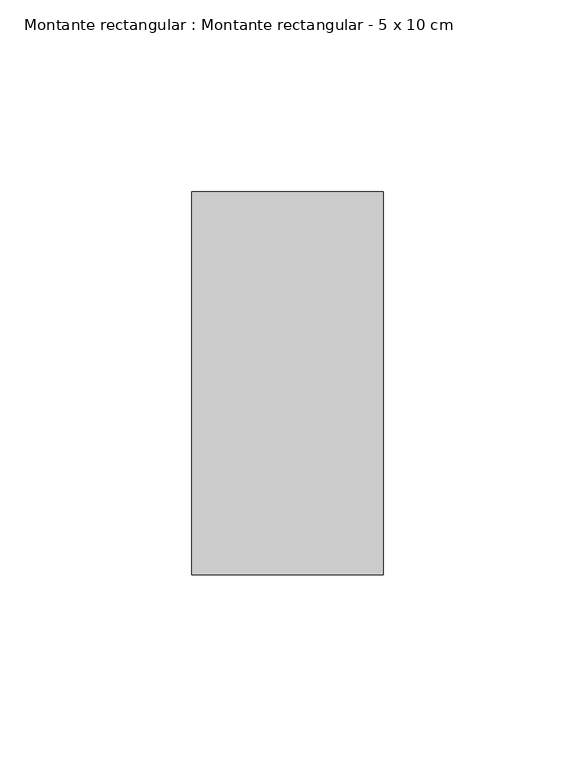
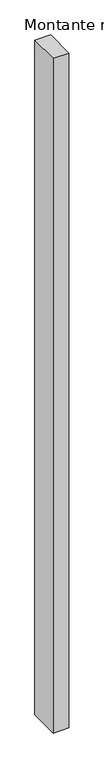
"""IFC4 building model written with IfcOpenShell, lengths in millimetres: member geometry, Montante rectangular : Montante rectangular - 5 x 10 cm."""

from ifc_helpers import new_model, si_unit, frame, origin, place, context, project, spatial, polyline, outline, extrude, source, transform, mapped, element, save


def montante_rectangular_montante_rectangular_5_x_10_cm_b7bb34ff(model_context):
    return source(origin(), model_context, "Body", "SweptSolid", [
        extrude(outline(polyline([(0.0, 50.0), (0.0, -50.0), (-50.0, -50.0), (-50.0, 50.0), (0.0, 50.0)])), frame((0.0, 0.0, -2260.0), z_axis=(0.0, 0.0, 1.0), x_axis=(1.0, 0.0, 0.0)), (0.0, 0.0, 1.0), 2260.0),
    ])


if __name__ == "__main__":
    model = new_model("IFC4")
    model_context = context("Model", 3, world=origin())
    ifc_project = project(units=[si_unit("LENGTHUNIT", "METRE", prefix="MILLI")], contexts=[model_context])
    site = spatial("IfcSite", under=ifc_project)
    building = spatial("IfcBuilding", under=site)
    placement = place(None, origin())
    montante_rectangular_montante_rectangular_5_x_10_cm_shape = montante_rectangular_montante_rectangular_5_x_10_cm_b7bb34ff(model_context)
    element("IfcMember", 1, ObjectType="Montante rectangular : Montante rectangular - 5 x 10 cm", at=placement, inside=building, context=model_context, shape_type="MappedRepresentation", body=[
        mapped(montante_rectangular_montante_rectangular_5_x_10_cm_shape, transform((0.0, 0.0, 0.0), x_axis=(1.0, 0.0, 0.0), y_axis=(0.0, 1.0, 0.0), z_axis=(0.0, 0.0, 1.0))),
    ])
    save(model, "model.ifc")
